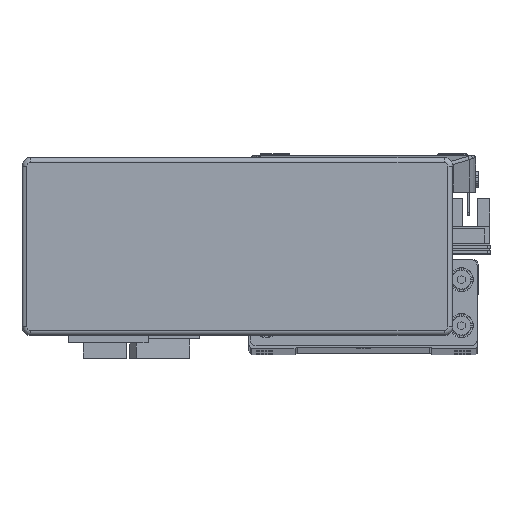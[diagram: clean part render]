
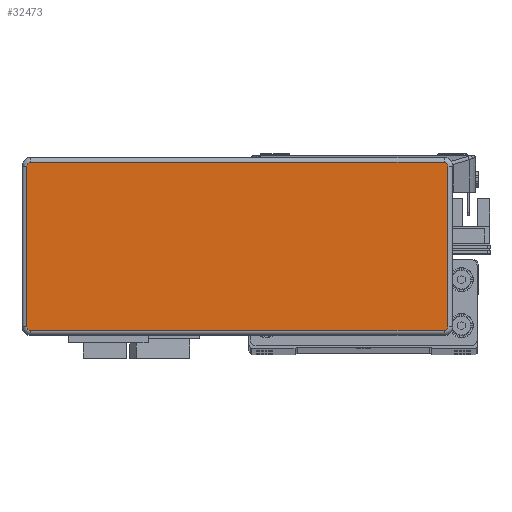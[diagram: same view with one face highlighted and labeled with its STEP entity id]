
A CAD part, top view. The second image highlights one B-rep face of the part: STEP entity #32473.
In plain terms, the highlighted planar face has unit normal (0, 0, 1) as drawn and (0, 0, -1) by its records, which use the part's own axes.
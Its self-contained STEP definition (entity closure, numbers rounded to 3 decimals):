
#2725 = VERTEX_POINT ( 'NONE', #20758 ) ;
#2741 = VERTEX_POINT ( 'NONE', #20818 ) ;
#2749 = VERTEX_POINT ( 'NONE', #20830 ) ;
#2750 = VERTEX_POINT ( 'NONE', #20838 ) ;
#2751 = VERTEX_POINT ( 'NONE', #20788 ) ;
#2752 = VERTEX_POINT ( 'NONE', #20801 ) ;
#2764 = VERTEX_POINT ( 'NONE', #20813 ) ;
#2775 = VERTEX_POINT ( 'NONE', #20822 ) ;
#8264 = VECTOR ( 'NONE', #9142, 1000. ) ;
#8267 = VECTOR ( 'NONE', #9117, 1000. ) ;
#8287 = CIRCLE ( 'NONE', #46938, 1.3 ) ;
#8293 = LINE ( 'NONE', #9158, #8264 ) ;
#8300 = CIRCLE ( 'NONE', #46924, 1.3 ) ;
#8312 = LINE ( 'NONE', #9056, #8267 ) ;
#8326 = LINE ( 'NONE', #9505, #8368 ) ;
#8333 = CIRCLE ( 'NONE', #46948, 1.3 ) ;
#8350 = VECTOR ( 'NONE', #9450, 1000. ) ;
#8368 = VECTOR ( 'NONE', #9497, 1000. ) ;
#8370 = LINE ( 'NONE', #9334, #8350 ) ;
#8372 = CIRCLE ( 'NONE', #46974, 1.3 ) ;
#9056 = CARTESIAN_POINT ( 'NONE',  ( 71.995, 29.295, -32.2 ) ) ;
#9060 = CARTESIAN_POINT ( 'NONE',  ( -71.995, -27.995, -32.2 ) ) ;
#9061 = DIRECTION ( 'NONE',  ( 0., 0., -1. ) ) ;
#9063 = DIRECTION ( 'NONE',  ( 1., 0., 0. ) ) ;
#9117 = DIRECTION ( 'NONE',  ( 1., 0., 0. ) ) ;
#9142 = DIRECTION ( 'NONE',  ( -1., 0., 0. ) ) ;
#9153 = CARTESIAN_POINT ( 'NONE',  ( 71.995, 27.995, -32.2 ) ) ;
#9157 = DIRECTION ( 'NONE',  ( 1., 0., 0. ) ) ;
#9158 = CARTESIAN_POINT ( 'NONE',  ( 71.995, -29.295, -32.2 ) ) ;
#9168 = DIRECTION ( 'NONE',  ( 0., 0., -1. ) ) ;
#9241 = CARTESIAN_POINT ( 'NONE',  ( 71.995, -27.995, -32.2 ) ) ;
#9254 = DIRECTION ( 'NONE',  ( 1., 0., 0. ) ) ;
#9279 = DIRECTION ( 'NONE',  ( 0., 0., -1. ) ) ;
#9334 = CARTESIAN_POINT ( 'NONE',  ( -73.295, -27.995, -32.2 ) ) ;
#9422 = DIRECTION ( 'NONE',  ( 0., 0., -1. ) ) ;
#9423 = DIRECTION ( 'NONE',  ( 1., 0., 0. ) ) ;
#9441 = CARTESIAN_POINT ( 'NONE',  ( -71.995, 27.995, -32.2 ) ) ;
#9450 = DIRECTION ( 'NONE',  ( 0., 1., 0. ) ) ;
#9497 = DIRECTION ( 'NONE',  ( 0., -1., 0. ) ) ;
#9505 = CARTESIAN_POINT ( 'NONE',  ( 73.295, -27.995, -32.2 ) ) ;
#19617 = FACE_OUTER_BOUND ( 'NONE', #30763, .T. ) ;
#20758 = CARTESIAN_POINT ( 'NONE',  ( -73.295, 27.995, -32.2 ) ) ;
#20788 = CARTESIAN_POINT ( 'NONE',  ( 73.295, 27.995, -32.2 ) ) ;
#20801 = CARTESIAN_POINT ( 'NONE',  ( 71.995, 29.295, -32.2 ) ) ;
#20813 = CARTESIAN_POINT ( 'NONE',  ( 73.295, -27.995, -32.2 ) ) ;
#20818 = CARTESIAN_POINT ( 'NONE',  ( -71.995, -29.295, -32.2 ) ) ;
#20822 = CARTESIAN_POINT ( 'NONE',  ( -71.995, 29.295, -32.2 ) ) ;
#20830 = CARTESIAN_POINT ( 'NONE',  ( -73.295, -27.995, -32.2 ) ) ;
#20838 = CARTESIAN_POINT ( 'NONE',  ( 71.995, -29.295, -32.2 ) ) ;
#29267 = DIRECTION ( 'NONE',  ( 1., 0., 0. ) ) ;
#29269 = CARTESIAN_POINT ( 'NONE',  ( 71.995, -27.995, -32.2 ) ) ;
#29276 = DIRECTION ( 'NONE',  ( 0., 0., 1. ) ) ;
#29277 = PLANE ( 'NONE',  #37202 ) ;
#30763 = EDGE_LOOP ( 'NONE', ( #40881, #40884, #40889, #40911, #40895, #40907, #40899, #40934 ) ) ;
#32473 = ADVANCED_FACE ( 'NONE', ( #19617 ), #29277, .F. ) ;
#37202 = AXIS2_PLACEMENT_3D ( 'NONE', #29269, #29276, #29267 ) ;
#39434 = EDGE_CURVE ( 'NONE', #2741, #2749, #8300, .T. ) ;
#39436 = EDGE_CURVE ( 'NONE', #2775, #2752, #8312, .T. ) ;
#39450 = EDGE_CURVE ( 'NONE', #2752, #2751, #8287, .T. ) ;
#39453 = EDGE_CURVE ( 'NONE', #2750, #2741, #8293, .T. ) ;
#39471 = EDGE_CURVE ( 'NONE', #2764, #2750, #8333, .T. ) ;
#39476 = EDGE_CURVE ( 'NONE', #2749, #2725, #8370, .T. ) ;
#39484 = EDGE_CURVE ( 'NONE', #2725, #2775, #8372, .T. ) ;
#39491 = EDGE_CURVE ( 'NONE', #2751, #2764, #8326, .T. ) ;
#40881 = ORIENTED_EDGE ( 'NONE', *, *, #39491, .T. ) ;
#40884 = ORIENTED_EDGE ( 'NONE', *, *, #39471, .T. ) ;
#40889 = ORIENTED_EDGE ( 'NONE', *, *, #39453, .T. ) ;
#40895 = ORIENTED_EDGE ( 'NONE', *, *, #39476, .T. ) ;
#40899 = ORIENTED_EDGE ( 'NONE', *, *, #39436, .T. ) ;
#40907 = ORIENTED_EDGE ( 'NONE', *, *, #39484, .T. ) ;
#40911 = ORIENTED_EDGE ( 'NONE', *, *, #39434, .T. ) ;
#40934 = ORIENTED_EDGE ( 'NONE', *, *, #39450, .T. ) ;
#46924 = AXIS2_PLACEMENT_3D ( 'NONE', #9060, #9061, #9063 ) ;
#46938 = AXIS2_PLACEMENT_3D ( 'NONE', #9153, #9168, #9157 ) ;
#46948 = AXIS2_PLACEMENT_3D ( 'NONE', #9241, #9279, #9254 ) ;
#46974 = AXIS2_PLACEMENT_3D ( 'NONE', #9441, #9422, #9423 ) ;
